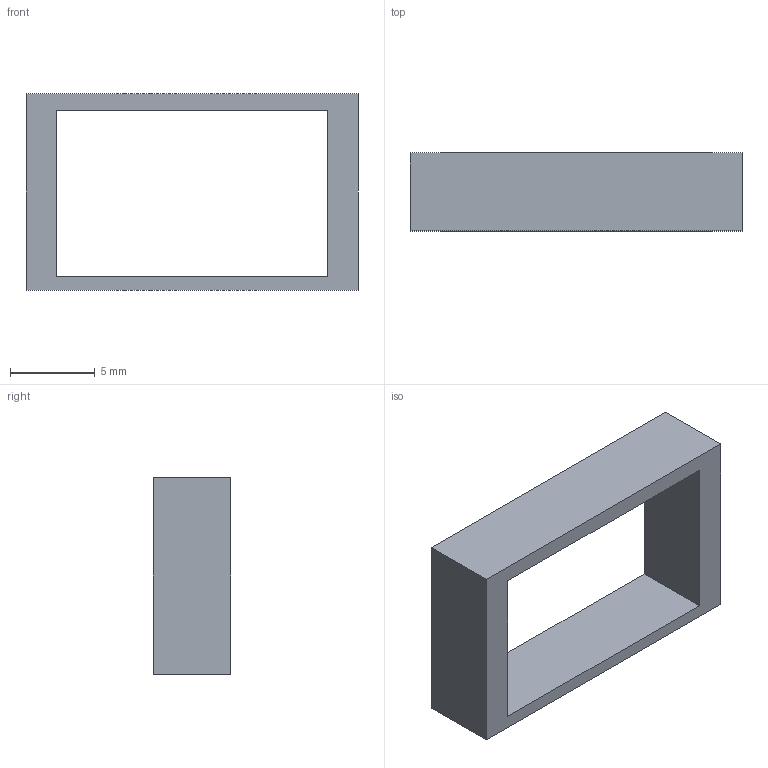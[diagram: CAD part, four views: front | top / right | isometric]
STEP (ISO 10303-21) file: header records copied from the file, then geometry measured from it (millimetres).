
FILE_DESCRIPTION(('FreeCAD Model'),'2;1');
FILE_NAME('Open CASCADE Shape Model','2026-10-24T11:59:21',('FreeCAD'),( 'FreeCAD'),'Open CASCADE STEP processor 7.8','FreeCAD','Unknown');
FILE_SCHEMA(('AUTOMOTIVE_DESIGN { 1 0 10303 214 1 1 1 1 }'));
Length unit declared in the file: millimetre
Products named in the file (1): Open CASCADE STEP translator 7.8 7
Bounding box: 19.6 x 4.6 x 11.6 mm (x, y, z)
Volume: 324.6 mm3; surface area: 665.5 mm2
Topology: 1 solids, 1 shells, 10 faces, 24 edges, 16 vertices
Faces by surface type: plane 10
Entity records: 302 total; most frequent: CARTESIAN_POINT 51, ORIENTED_EDGE 48, DIRECTION 46, EDGE_CURVE 24, LINE 24, VECTOR 24, VERTEX_POINT 16, FACE_BOUND 12
